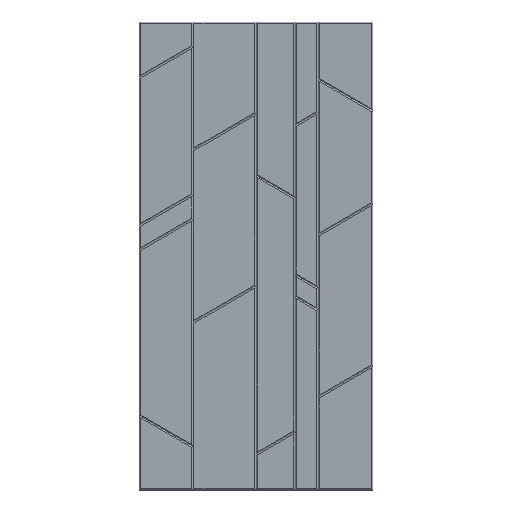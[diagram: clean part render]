
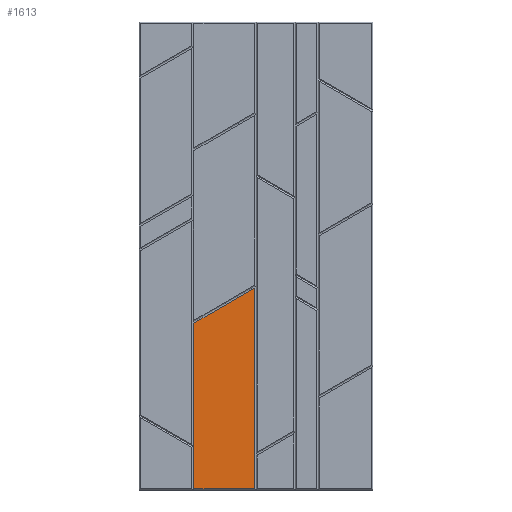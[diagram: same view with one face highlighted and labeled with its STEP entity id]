
A CAD part, top view. The second image highlights one B-rep face of the part: STEP entity #1613.
In plain terms, the highlighted planar face has unit normal (0, 0, 1).
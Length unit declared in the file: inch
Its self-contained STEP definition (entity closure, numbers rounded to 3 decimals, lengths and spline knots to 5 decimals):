
#31=FACE_OUTER_BOUND('',#131,.T.);
#131=EDGE_LOOP('',(#1106,#1107,#1108,#1109));
#234=LINE('',#2295,#464);
#269=LINE('',#2366,#499);
#270=LINE('',#2368,#500);
#271=LINE('',#2369,#501);
#464=VECTOR('',#1852,0.3937);
#499=VECTOR('',#1909,0.3937);
#500=VECTOR('',#1910,0.3937);
#501=VECTOR('',#1911,0.3937);
#691=VERTEX_POINT('',#2292);
#692=VERTEX_POINT('',#2294);
#717=VERTEX_POINT('',#2365);
#718=VERTEX_POINT('',#2367);
#826=EDGE_CURVE('',#692,#691,#234,.T.);
#861=EDGE_CURVE('',#691,#717,#269,.T.);
#862=EDGE_CURVE('',#718,#717,#270,.T.);
#863=EDGE_CURVE('',#718,#692,#271,.T.);
#1106=ORIENTED_EDGE('',*,*,#826,.T.);
#1107=ORIENTED_EDGE('',*,*,#861,.T.);
#1108=ORIENTED_EDGE('',*,*,#862,.F.);
#1109=ORIENTED_EDGE('',*,*,#863,.T.);
#1513=PLANE('',#1735);
#1613=ADVANCED_FACE('',(#31),#1513,.T.);
#1735=AXIS2_PLACEMENT_3D('',#2364,#1907,#1908);
#1852=DIRECTION('',(-0.866,-0.5,0.));
#1907=DIRECTION('center_axis',(0.,0.,1.));
#1908=DIRECTION('ref_axis',(1.,0.,0.));
#1909=DIRECTION('',(0.,-1.,0.));
#1910=DIRECTION('',(-1.,0.,0.));
#1911=DIRECTION('',(0.,1.,0.));
#2292=CARTESIAN_POINT('',(11.28213,34.25243,0.5));
#2294=CARTESIAN_POINT('',(23.78213,41.46931,0.5));
#2295=CARTESIAN_POINT('',(18.79745,38.59141,0.5));
#2364=CARTESIAN_POINT('Origin',(24.03213,48.0353,0.5));
#2365=CARTESIAN_POINT('',(11.28213,0.2853,0.5));
#2366=CARTESIAN_POINT('',(11.28213,59.12626,0.5));
#2367=CARTESIAN_POINT('',(23.78213,0.2853,0.5));
#2368=CARTESIAN_POINT('',(12.03213,0.2853,0.5));
#2369=CARTESIAN_POINT('',(23.78213,62.44603,0.5));
